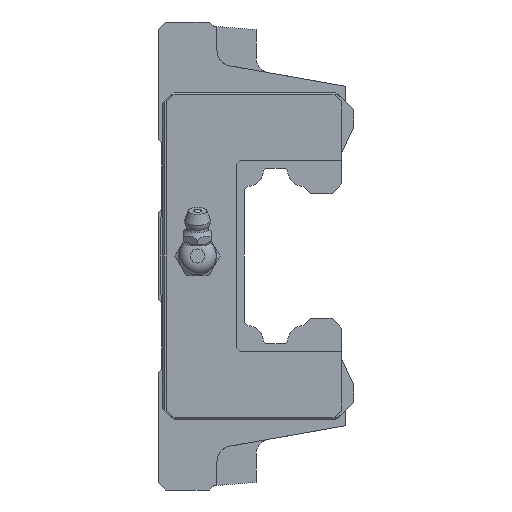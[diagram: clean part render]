
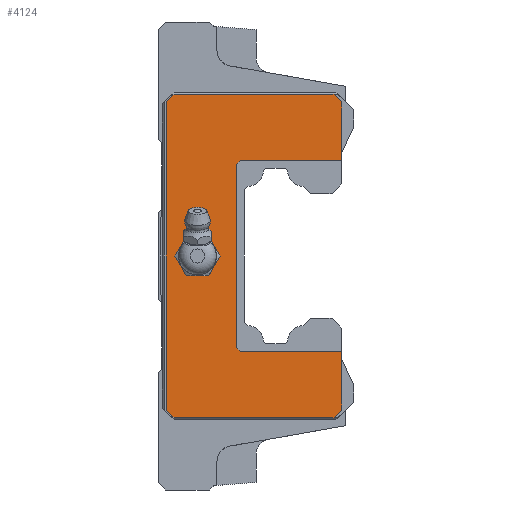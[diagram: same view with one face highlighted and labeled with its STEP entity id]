
A CAD part, left-side view. The second image highlights one B-rep face of the part: STEP entity #4124.
In plain terms, the highlighted planar face has unit normal (-1, 0, 0).
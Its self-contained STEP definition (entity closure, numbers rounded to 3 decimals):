
#199=LINE('',#6204,#637);
#204=LINE('',#6214,#642);
#413=LINE('',#6805,#851);
#417=LINE('',#6812,#855);
#418=LINE('',#6814,#856);
#420=LINE('',#6818,#858);
#423=LINE('',#6823,#861);
#425=LINE('',#6827,#863);
#427=LINE('',#6831,#865);
#441=LINE('',#6885,#879);
#442=LINE('',#6888,#880);
#443=LINE('',#6889,#881);
#444=LINE('',#6891,#882);
#445=LINE('',#6893,#883);
#637=VECTOR('',#4870,1000.);
#642=VECTOR('',#4877,1000.);
#851=VECTOR('',#5396,1000.);
#855=VECTOR('',#5402,1000.);
#856=VECTOR('',#5405,1000.);
#858=VECTOR('',#5409,1000.);
#861=VECTOR('',#5414,1000.);
#863=VECTOR('',#5418,1000.);
#865=VECTOR('',#5422,1000.);
#879=VECTOR('',#5488,1000.);
#880=VECTOR('',#5489,1000.);
#881=VECTOR('',#5490,1000.);
#882=VECTOR('',#5491,1000.);
#883=VECTOR('',#5492,1000.);
#1045=PLANE('',#4473);
#1210=CIRCLE('',#4474,4.864);
#2156=ORIENTED_EDGE('',*,*,#2902,.T.);
#2157=ORIENTED_EDGE('',*,*,#2903,.T.);
#2158=ORIENTED_EDGE('',*,*,#2904,.T.);
#2159=ORIENTED_EDGE('',*,*,#2584,.T.);
#2160=ORIENTED_EDGE('',*,*,#2869,.T.);
#2161=ORIENTED_EDGE('',*,*,#2865,.T.);
#2162=ORIENTED_EDGE('',*,*,#2879,.T.);
#2163=ORIENTED_EDGE('',*,*,#2877,.T.);
#2164=ORIENTED_EDGE('',*,*,#2875,.T.);
#2165=ORIENTED_EDGE('',*,*,#2872,.T.);
#2166=ORIENTED_EDGE('',*,*,#2870,.T.);
#2167=ORIENTED_EDGE('',*,*,#2579,.T.);
#2168=ORIENTED_EDGE('',*,*,#2905,.T.);
#2169=ORIENTED_EDGE('',*,*,#2906,.T.);
#2170=ORIENTED_EDGE('',*,*,#2907,.T.);
#2579=EDGE_CURVE('',#3103,#3102,#199,.T.);
#2584=EDGE_CURVE('',#3107,#3106,#204,.T.);
#2865=EDGE_CURVE('',#3302,#3303,#413,.T.);
#2869=EDGE_CURVE('',#3106,#3302,#417,.T.);
#2870=EDGE_CURVE('',#3304,#3103,#418,.T.);
#2872=EDGE_CURVE('',#3305,#3304,#420,.T.);
#2875=EDGE_CURVE('',#3306,#3305,#423,.T.);
#2877=EDGE_CURVE('',#3307,#3306,#425,.T.);
#2879=EDGE_CURVE('',#3303,#3307,#427,.T.);
#2902=EDGE_CURVE('',#3321,#3321,#1210,.T.);
#2903=EDGE_CURVE('',#3322,#3323,#441,.T.);
#2904=EDGE_CURVE('',#3323,#3107,#442,.T.);
#2905=EDGE_CURVE('',#3102,#3324,#443,.T.);
#2906=EDGE_CURVE('',#3324,#3325,#444,.T.);
#2907=EDGE_CURVE('',#3325,#3322,#445,.T.);
#3102=VERTEX_POINT('',#6203);
#3103=VERTEX_POINT('',#6205);
#3106=VERTEX_POINT('',#6213);
#3107=VERTEX_POINT('',#6215);
#3302=VERTEX_POINT('',#6806);
#3303=VERTEX_POINT('',#6807);
#3304=VERTEX_POINT('',#6815);
#3305=VERTEX_POINT('',#6819);
#3306=VERTEX_POINT('',#6824);
#3307=VERTEX_POINT('',#6828);
#3321=VERTEX_POINT('',#6884);
#3322=VERTEX_POINT('',#6886);
#3323=VERTEX_POINT('',#6887);
#3324=VERTEX_POINT('',#6890);
#3325=VERTEX_POINT('',#6892);
#3587=EDGE_LOOP('',(#2156));
#3588=EDGE_LOOP('',(#2157,#2158,#2159,#2160,#2161,#2162,#2163,#2164,#2165,
#2166,#2167,#2168,#2169,#2170));
#3864=FACE_BOUND('',#3587,.T.);
#3865=FACE_BOUND('',#3588,.T.);
#4124=ADVANCED_FACE('',(#3864,#3865),#1045,.F.);
#4473=AXIS2_PLACEMENT_3D('',#6882,#5484,#5485);
#4474=AXIS2_PLACEMENT_3D('',#6883,#5486,#5487);
#4870=DIRECTION('',(0.,0.,1.));
#4877=DIRECTION('',(0.,0.,1.));
#5396=DIRECTION('',(0.,1.,0.));
#5402=DIRECTION('',(0.,0.707,0.707));
#5405=DIRECTION('',(0.,-0.707,0.707));
#5409=DIRECTION('',(0.,-1.,0.));
#5414=DIRECTION('',(0.,-0.707,-0.707));
#5418=DIRECTION('',(0.,0.,-1.));
#5422=DIRECTION('',(0.,0.707,-0.707));
#5484=DIRECTION('',(1.,0.,0.));
#5485=DIRECTION('',(0.,0.,-1.));
#5486=DIRECTION('',(1.,0.,0.));
#5487=DIRECTION('',(0.,0.,-1.));
#5488=DIRECTION('',(0.,-0.707,0.707));
#5489=DIRECTION('',(0.,-1.,0.));
#5490=DIRECTION('',(0.,1.,0.));
#5491=DIRECTION('',(0.,0.707,0.707));
#5492=DIRECTION('',(0.,0.,1.));
#6203=CARTESIAN_POINT('',(-83.9,3.,-24.5));
#6204=CARTESIAN_POINT('',(-83.9,3.,39.5));
#6205=CARTESIAN_POINT('',(-83.9,3.,-39.5));
#6213=CARTESIAN_POINT('',(-83.9,3.,39.5));
#6214=CARTESIAN_POINT('',(-83.9,3.,39.5));
#6215=CARTESIAN_POINT('',(-83.9,3.,24.5));
#6805=CARTESIAN_POINT('',(-83.9,46.,41.5));
#6806=CARTESIAN_POINT('',(-83.9,5.,41.5));
#6807=CARTESIAN_POINT('',(-83.9,46.,41.5));
#6812=CARTESIAN_POINT('',(-83.9,5.,41.5));
#6814=CARTESIAN_POINT('',(-83.9,3.,-39.5));
#6815=CARTESIAN_POINT('',(-83.9,5.,-41.5));
#6818=CARTESIAN_POINT('',(-83.9,5.,-41.5));
#6819=CARTESIAN_POINT('',(-83.9,46.,-41.5));
#6823=CARTESIAN_POINT('',(-83.9,46.,-41.5));
#6824=CARTESIAN_POINT('',(-83.9,48.,-39.5));
#6827=CARTESIAN_POINT('',(-83.9,48.,-39.5));
#6828=CARTESIAN_POINT('',(-83.9,48.,39.5));
#6831=CARTESIAN_POINT('',(-83.9,48.,39.5));
#6882=CARTESIAN_POINT('',(-83.9,0.,0.));
#6883=CARTESIAN_POINT('',(-83.9,40.,0.));
#6884=CARTESIAN_POINT('',(-83.9,40.,-4.864));
#6885=CARTESIAN_POINT('',(-83.9,30.,23.5));
#6886=CARTESIAN_POINT('',(-83.9,30.,23.5));
#6887=CARTESIAN_POINT('',(-83.9,29.,24.5));
#6888=CARTESIAN_POINT('',(-83.9,29.,24.5));
#6889=CARTESIAN_POINT('',(-83.9,3.,-24.5));
#6890=CARTESIAN_POINT('',(-83.9,29.,-24.5));
#6891=CARTESIAN_POINT('',(-83.9,29.,-24.5));
#6892=CARTESIAN_POINT('',(-83.9,30.,-23.5));
#6893=CARTESIAN_POINT('',(-83.9,30.,-23.5));
